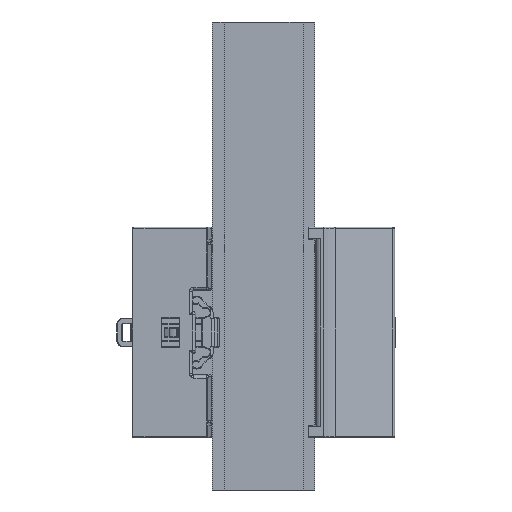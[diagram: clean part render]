
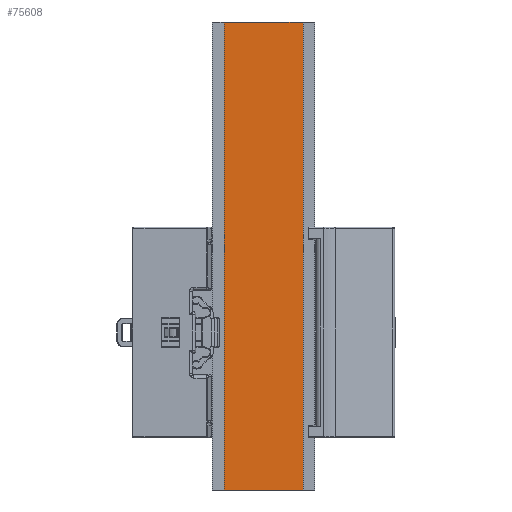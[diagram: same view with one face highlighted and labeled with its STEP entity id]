
A CAD part, front view. The second image highlights one B-rep face of the part: STEP entity #75608.
In plain terms, the highlighted planar face has unit normal (0, -1, 0).
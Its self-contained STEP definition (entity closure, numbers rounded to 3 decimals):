
#10851 = CARTESIAN_POINT ( 'NONE',  ( -13.5, -7.5, 106.159 ) ) ;
#13383 = CARTESIAN_POINT ( 'NONE',  ( 0., -7.5, 106.159 ) ) ;
#16282 = CARTESIAN_POINT ( 'NONE',  ( 13.5, -7.5, 106.159 ) ) ;
#19139 = EDGE_LOOP ( 'NONE', ( #37786, #65626, #45973, #71324 ) ) ;
#37786 = ORIENTED_EDGE ( 'NONE', *, *, #51094, .F. ) ;
#43806 = CARTESIAN_POINT ( 'NONE',  ( -13.5, -7.5, -53.841 ) ) ;
#45973 = ORIENTED_EDGE ( 'NONE', *, *, #71511, .F. ) ;
#51094 = EDGE_CURVE ( 'NONE', #175857, #117336, #213424, .T. ) ;
#65626 = ORIENTED_EDGE ( 'NONE', *, *, #119932, .F. ) ;
#66861 = PLANE ( 'NONE',  #144289 ) ;
#71324 = ORIENTED_EDGE ( 'NONE', *, *, #127710, .F. ) ;
#71511 = EDGE_CURVE ( 'NONE', #79865, #94848, #92121, .T. ) ;
#75608 = ADVANCED_FACE ( 'NONE', ( #147073 ), #66861, .F. ) ;
#79865 = VERTEX_POINT ( 'NONE', #43806 ) ;
#80519 = VECTOR ( 'NONE', #198535, 1000. ) ;
#84268 = CARTESIAN_POINT ( 'NONE',  ( 13.5, -7.5, -53.841 ) ) ;
#91043 = DIRECTION ( 'NONE',  ( 0., 0., 1. ) ) ;
#92121 = LINE ( 'NONE', #10851, #200296 ) ;
#94848 = VERTEX_POINT ( 'NONE', #188592 ) ;
#97380 = CARTESIAN_POINT ( 'NONE',  ( 13.5, -7.5, 106.159 ) ) ;
#97863 = VECTOR ( 'NONE', #179889, 1000. ) ;
#100471 = DIRECTION ( 'NONE',  ( 0., 1., 0. ) ) ;
#117336 = VERTEX_POINT ( 'NONE', #84268 ) ;
#119932 = EDGE_CURVE ( 'NONE', #94848, #175857, #179112, .T. ) ;
#127710 = EDGE_CURVE ( 'NONE', #117336, #79865, #197990, .T. ) ;
#132961 = DIRECTION ( 'NONE',  ( -1., 0., 0. ) ) ;
#144289 = AXIS2_PLACEMENT_3D ( 'NONE', #213140, #100471, #132961 ) ;
#146037 = DIRECTION ( 'NONE',  ( -1., 0., 0. ) ) ;
#147073 = FACE_OUTER_BOUND ( 'NONE', #19139, .T. ) ;
#164415 = CARTESIAN_POINT ( 'NONE',  ( 0., -7.5, -53.841 ) ) ;
#175857 = VERTEX_POINT ( 'NONE', #97380 ) ;
#179112 = LINE ( 'NONE', #13383, #80519 ) ;
#179889 = DIRECTION ( 'NONE',  ( 0., 0., -1. ) ) ;
#188592 = CARTESIAN_POINT ( 'NONE',  ( -13.5, -7.5, 106.159 ) ) ;
#197990 = LINE ( 'NONE', #164415, #209006 ) ;
#198535 = DIRECTION ( 'NONE',  ( 1., 0., 0. ) ) ;
#200296 = VECTOR ( 'NONE', #91043, 1000. ) ;
#209006 = VECTOR ( 'NONE', #146037, 1000. ) ;
#213140 = CARTESIAN_POINT ( 'NONE',  ( 0., -7.5, 106.159 ) ) ;
#213424 = LINE ( 'NONE', #16282, #97863 ) ;
